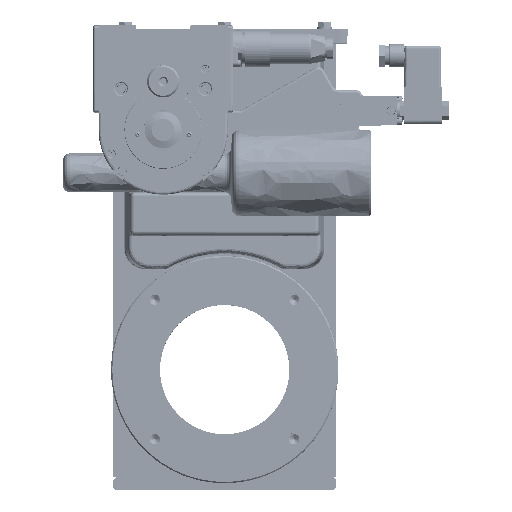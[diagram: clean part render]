
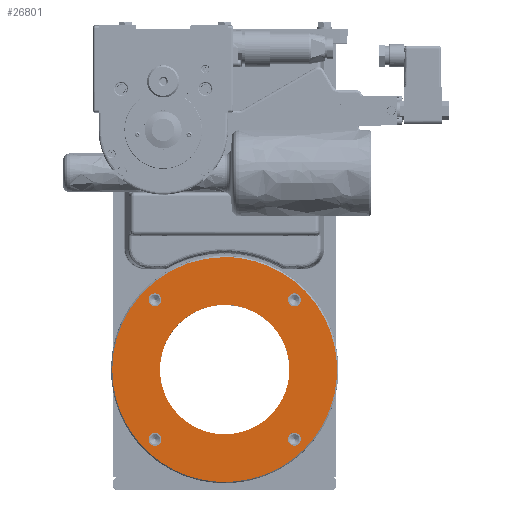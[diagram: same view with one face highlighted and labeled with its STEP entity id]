
A CAD part, top view. The second image highlights one B-rep face of the part: STEP entity #26801.
In plain terms, the highlighted free-form (B-spline) face has degree [1, 1] with [2, 2] control points.
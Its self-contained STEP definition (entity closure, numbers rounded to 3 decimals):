
#25945=CARTESIAN_POINT('V26',(49.002,0.0,
   54.975));
#25946=VERTEX_POINT('V26',#25945);
#25954=CARTESIAN_POINT('E42',(49.002,0.0,
   54.975));
#25955=CARTESIAN_POINT('E42',(47.109,0.0,
   46.524));
#25956=CARTESIAN_POINT('E42',(55.374,0.0,
   49.11));
#25957=CARTESIAN_POINT('E42',(63.64,0.0,
   51.695));
#25958=CARTESIAN_POINT('E42',(57.268,0.0,
   57.56));
#25959=CARTESIAN_POINT('E42',(50.896,0.0,
   63.425));
#25960=CARTESIAN_POINT('E42',(49.002,0.0,
   54.975));
#25968=(BOUNDED_CURVE()B_SPLINE_CURVE(2,(#25954,#25955,#25956,
   #25957,#25958,#25959,#25960),.CIRCULAR_ARC.,.T.,.U.)
   B_SPLINE_CURVE_WITH_KNOTS((3,2,2,3),(0.0,0.333,
   0.667,1.0),.UNSPECIFIED.)CURVE()
   GEOMETRIC_REPRESENTATION_ITEM()RATIONAL_B_SPLINE_CURVE((1.0,
   0.5,1.0,0.5,1.0,0.5,1.0)
   )REPRESENTATION_ITEM('E42'));
#25969=EDGE_CURVE('E42',#25946,#25946,#25968,.T.);
#26129=CARTESIAN_POINT('V25',(-54.975,0.0,
   49.002));
#26130=VERTEX_POINT('V25',#26129);
#26138=CARTESIAN_POINT('E40',(-54.975,0.0,
   49.002));
#26139=CARTESIAN_POINT('E40',(-46.524,0.0,
   47.109));
#26140=CARTESIAN_POINT('E40',(-49.11,0.0,
   55.374));
#26141=CARTESIAN_POINT('E40',(-51.695,0.0,
   63.64));
#26142=CARTESIAN_POINT('E40',(-57.56,0.0,
   57.268));
#26143=CARTESIAN_POINT('E40',(-63.425,0.0,
   50.896));
#26144=CARTESIAN_POINT('E40',(-54.975,0.0,
   49.002));
#26152=(BOUNDED_CURVE()B_SPLINE_CURVE(2,(#26138,#26139,#26140,
   #26141,#26142,#26143,#26144),.CIRCULAR_ARC.,.T.,.U.)
   B_SPLINE_CURVE_WITH_KNOTS((3,2,2,3),(0.0,0.333,
   0.667,1.0),.UNSPECIFIED.)CURVE()
   GEOMETRIC_REPRESENTATION_ITEM()RATIONAL_B_SPLINE_CURVE((1.0,
   0.5,1.0,0.5,1.0,0.5,1.0)
   )REPRESENTATION_ITEM('E40'));
#26153=EDGE_CURVE('E40',#26130,#26130,#26152,.T.);
#26313=CARTESIAN_POINT('V24',(-49.002,0.0,
   -54.975));
#26314=VERTEX_POINT('V24',#26313);
#26322=CARTESIAN_POINT('E38',(-49.002,0.0,
   -54.975));
#26323=CARTESIAN_POINT('E38',(-47.109,0.0,
   -46.524));
#26324=CARTESIAN_POINT('E38',(-55.374,0.0,
   -49.11));
#26325=CARTESIAN_POINT('E38',(-63.64,0.0,
   -51.695));
#26326=CARTESIAN_POINT('E38',(-57.268,0.0,
   -57.56));
#26327=CARTESIAN_POINT('E38',(-50.896,0.0,
   -63.425));
#26328=CARTESIAN_POINT('E38',(-49.002,0.0,
   -54.975));
#26336=(BOUNDED_CURVE()B_SPLINE_CURVE(2,(#26322,#26323,#26324,
   #26325,#26326,#26327,#26328),.CIRCULAR_ARC.,.T.,.U.)
   B_SPLINE_CURVE_WITH_KNOTS((3,2,2,3),(0.0,0.333,
   0.667,1.0),.UNSPECIFIED.)CURVE()
   GEOMETRIC_REPRESENTATION_ITEM()RATIONAL_B_SPLINE_CURVE((1.0,
   0.5,1.0,0.5,1.0,0.5,1.0)
   )REPRESENTATION_ITEM('E38'));
#26337=EDGE_CURVE('E38',#26314,#26314,#26336,.T.);
#26497=CARTESIAN_POINT('V23',(54.975,0.0,
   -49.002));
#26498=VERTEX_POINT('V23',#26497);
#26506=CARTESIAN_POINT('E36',(54.975,0.0,
   -49.002));
#26507=CARTESIAN_POINT('E36',(46.524,0.0,
   -47.109));
#26508=CARTESIAN_POINT('E36',(49.11,0.0,
   -55.374));
#26509=CARTESIAN_POINT('E36',(51.695,0.0,
   -63.64));
#26510=CARTESIAN_POINT('E36',(57.56,0.0,
   -57.268));
#26511=CARTESIAN_POINT('E36',(63.425,0.0,
   -50.896));
#26512=CARTESIAN_POINT('E36',(54.975,0.0,
   -49.002));
#26520=(BOUNDED_CURVE()B_SPLINE_CURVE(2,(#26506,#26507,#26508,
   #26509,#26510,#26511,#26512),.CIRCULAR_ARC.,.T.,.U.)
   B_SPLINE_CURVE_WITH_KNOTS((3,2,2,3),(0.0,0.333,
   0.667,1.0),.UNSPECIFIED.)CURVE()
   GEOMETRIC_REPRESENTATION_ITEM()RATIONAL_B_SPLINE_CURVE((1.0,
   0.5,1.0,0.5,1.0,0.5,1.0)
   )REPRESENTATION_ITEM('E36'));
#26521=EDGE_CURVE('E36',#26498,#26498,#26520,.T.);
#26550=CARTESIAN_POINT('V2',(50.05,0.0,0.0));
#26551=VERTEX_POINT('V2',#26550);
#26575=CARTESIAN_POINT('E2',(50.05,0.0,0.0));
#26576=CARTESIAN_POINT('E2',(50.05,0.0,
   -86.689));
#26577=CARTESIAN_POINT('E2',(-25.025,0.0,
   -43.345));
#26578=CARTESIAN_POINT('E2',(-100.1,0.0,0.)
   );
#26579=CARTESIAN_POINT('E2',(-25.025,0.0,
   43.345));
#26580=CARTESIAN_POINT('E2',(50.05,0.0,
   86.689));
#26581=CARTESIAN_POINT('E2',(50.05,0.0,0.0));
#26589=(BOUNDED_CURVE()B_SPLINE_CURVE(2,(#26575,#26576,#26577,
   #26578,#26579,#26580,#26581),.CIRCULAR_ARC.,.T.,.U.)
   B_SPLINE_CURVE_WITH_KNOTS((3,2,2,3),(0.0,0.333,
   0.667,1.0),.UNSPECIFIED.)CURVE()
   GEOMETRIC_REPRESENTATION_ITEM()RATIONAL_B_SPLINE_CURVE((1.0,
   0.5,1.0,0.5,1.0,0.5,1.0)
   )REPRESENTATION_ITEM('E2'));
#26590=EDGE_CURVE('E2',#26551,#26551,#26589,.T.);
#26749=CARTESIAN_POINT('V6',(86.9,0.0,0.0));
#26750=VERTEX_POINT('V6',#26749);
#26756=CARTESIAN_POINT('E10',(86.9,0.0,0.0));
#26757=CARTESIAN_POINT('E10',(86.9,0.0,
   -150.515));
#26758=CARTESIAN_POINT('E10',(-43.45,0.0,
   -75.258));
#26759=CARTESIAN_POINT('E10',(-173.8,0.0,
   0.));
#26760=CARTESIAN_POINT('E10',(-43.45,0.0,
   75.258));
#26761=CARTESIAN_POINT('E10',(86.9,0.0,
   150.515));
#26762=CARTESIAN_POINT('E10',(86.9,0.0,0.0));
#26770=(BOUNDED_CURVE()B_SPLINE_CURVE(2,(#26756,#26757,#26758,
   #26759,#26760,#26761,#26762),.CIRCULAR_ARC.,.T.,.U.)
   B_SPLINE_CURVE_WITH_KNOTS((3,2,2,3),(0.0,0.333,
   0.667,1.0),.UNSPECIFIED.)CURVE()
   GEOMETRIC_REPRESENTATION_ITEM()RATIONAL_B_SPLINE_CURVE((1.0,
   0.5,1.0,0.5,1.0,0.5,1.0)
   )REPRESENTATION_ITEM('E10'));
#26771=EDGE_CURVE('E10',#26750,#26750,#26770,.T.);
#26778=CARTESIAN_POINT('F22',(-95.59,0.0,
   -95.59));
#26779=CARTESIAN_POINT('F22',(-95.59,0.0,
   95.59));
#26780=CARTESIAN_POINT('F22',(95.59,0.0,
   -95.59));
#26781=CARTESIAN_POINT('F22',(95.59,0.0,
   95.59));
#26782=QUASI_UNIFORM_SURFACE('F22',1,1,((#26778,#26780),(#26779,
   #26781)),.PLANE_SURF.,.F.,.F.,.U.);
#26783=ORIENTED_EDGE('E10',*,*,#26771,.F.);
#26784=EDGE_LOOP('F22',(#26783));
#26785=FACE_OUTER_BOUND('F22',#26784,.F.);
#26786=ORIENTED_EDGE('F18',*,*,#26521,.F.);
#26787=EDGE_LOOP('F22',(#26786));
#26788=FACE_BOUND('F22',#26787,.F.);
#26789=ORIENTED_EDGE('F19',*,*,#26337,.F.);
#26790=EDGE_LOOP('F22',(#26789));
#26791=FACE_BOUND('F22',#26790,.F.);
#26792=ORIENTED_EDGE('F20',*,*,#26153,.F.);
#26793=EDGE_LOOP('F22',(#26792));
#26794=FACE_BOUND('F22',#26793,.F.);
#26795=ORIENTED_EDGE('F21',*,*,#25969,.F.);
#26796=EDGE_LOOP('F22',(#26795));
#26797=FACE_BOUND('F22',#26796,.F.);
#26798=ORIENTED_EDGE('F1',*,*,#26590,.T.);
#26799=EDGE_LOOP('F22',(#26798));
#26800=FACE_BOUND('F22',#26799,.F.);
#26801=ADVANCED_FACE('F22',(#26785,#26788,#26791,#26794,#26797,
   #26800),#26782,.T.);
